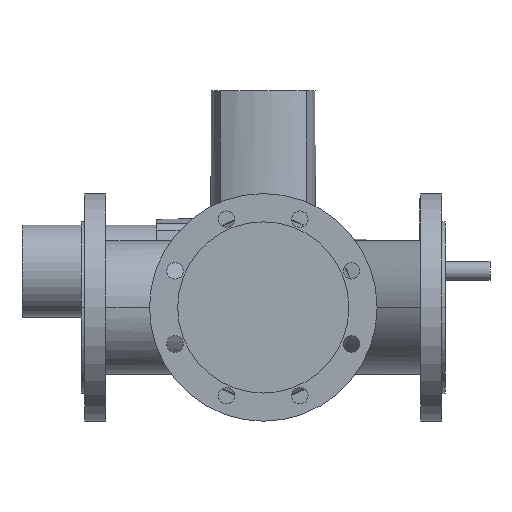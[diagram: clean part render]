
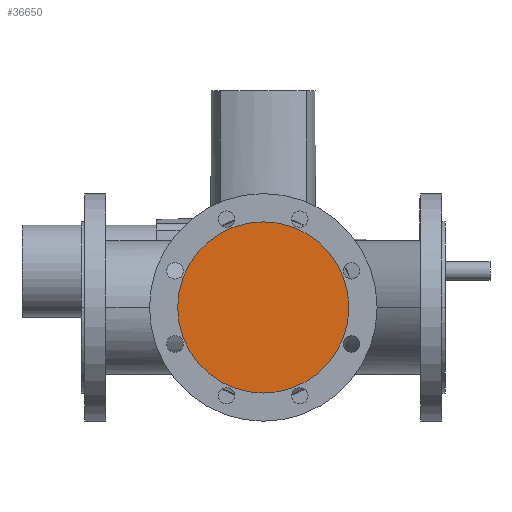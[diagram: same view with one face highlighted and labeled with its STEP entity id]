
A CAD part, front view. The second image highlights one B-rep face of the part: STEP entity #36650.
In plain terms, the highlighted planar face has unit normal (0, -1, 0).
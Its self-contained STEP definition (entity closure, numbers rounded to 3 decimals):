
#5940=CARTESIAN_POINT('',(106.,-200.,0.));
#5950=VERTEX_POINT('',#5940);
#5980=CARTESIAN_POINT('',(200.,-200.,0.));
#5990=DIRECTION('',(0.,1.,0.));
#6000=DIRECTION('',(1.,0.,0.));
#6010=AXIS2_PLACEMENT_3D('',#5980,#5990,#6000);
#6020=CIRCLE('',#6010,94.);
#6030=CARTESIAN_POINT('',(294.,-200.,0.));
#6040=VERTEX_POINT('',#6030);
#6050=EDGE_CURVE('',#6040,#5950,#6020,.T.);
#36550=CARTESIAN_POINT('',(247.,-200.,0.));
#36560=DIRECTION('',(0.,-1.,0.));
#36570=DIRECTION('',(-1.,0.,0.));
#36580=AXIS2_PLACEMENT_3D('',#36550,#36560,#36570);
#36590=PLANE('',#36580);
#36600=EDGE_CURVE('',#5950,#6040,#6020,.T.);
#36610=ORIENTED_EDGE('',*,*,#36600,.F.);
#36620=ORIENTED_EDGE('',*,*,#6050,.F.);
#36630=EDGE_LOOP('',(#36620,#36610));
#36640=FACE_OUTER_BOUND('',#36630,.T.);
#36650=ADVANCED_FACE('',(#36640),#36590,.T.);
